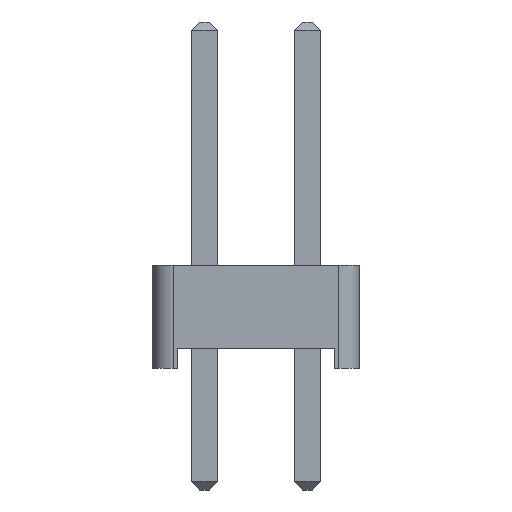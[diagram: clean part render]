
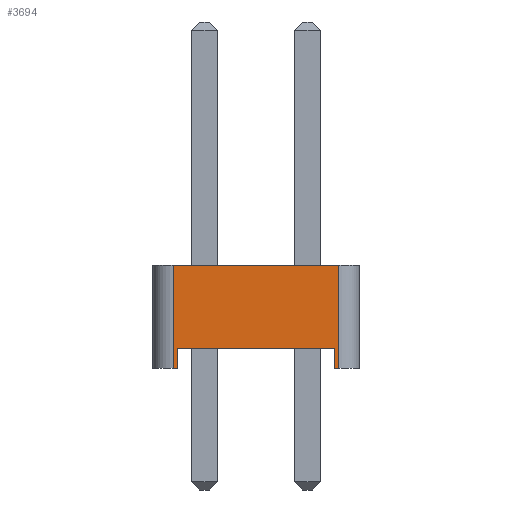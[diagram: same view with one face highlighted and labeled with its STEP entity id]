
A CAD part, left-side view. The second image highlights one B-rep face of the part: STEP entity #3694.
In plain terms, the highlighted planar face has unit normal (-1, 0, 0).
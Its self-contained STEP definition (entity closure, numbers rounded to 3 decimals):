
#3434 = VERTEX_POINT('',#3435);
#3435 = CARTESIAN_POINT('',(-1.27,2.04,0.));
#3443 = PLANE('',#3444);
#3444 = AXIS2_PLACEMENT_3D('',#3445,#3446,#3447);
#3445 = CARTESIAN_POINT('',(0.,0.,0.));
#3446 = DIRECTION('',(-0.,-0.,-1.));
#3447 = DIRECTION('',(-1.,0.,0.));
#3459 = CYLINDRICAL_SURFACE('',#3460,0.5);
#3460 = AXIS2_PLACEMENT_3D('',#3461,#3462,#3463);
#3461 = CARTESIAN_POINT('',(-0.77,2.04,0.));
#3462 = DIRECTION('',(0.,0.,1.));
#3463 = DIRECTION('',(0.,1.,0.));
#3561 = VERTEX_POINT('',#3562);
#3562 = CARTESIAN_POINT('',(-1.27,1.94,0.));
#3576 = PLANE('',#3577);
#3577 = AXIS2_PLACEMENT_3D('',#3578,#3579,#3580);
#3578 = CARTESIAN_POINT('',(1.27,1.94,0.));
#3579 = DIRECTION('',(0.,-1.,0.));
#3580 = DIRECTION('',(-1.,0.,0.));
#3588 = EDGE_CURVE('',#3561,#3434,#3589,.T.);
#3589 = SURFACE_CURVE('',#3590,(#3594,#3601),.PCURVE_S1.);
#3590 = LINE('',#3591,#3592);
#3591 = CARTESIAN_POINT('',(-1.27,-2.54,0.));
#3592 = VECTOR('',#3593,1.);
#3593 = DIRECTION('',(0.,1.,0.));
#3594 = PCURVE('',#3443,#3595);
#3595 = DEFINITIONAL_REPRESENTATION('',(#3596),#3600);
#3596 = LINE('',#3597,#3598);
#3597 = CARTESIAN_POINT('',(1.27,-2.54));
#3598 = VECTOR('',#3599,1.);
#3599 = DIRECTION('',(0.,1.));
#3600 = ( GEOMETRIC_REPRESENTATION_CONTEXT(2) 
PARAMETRIC_REPRESENTATION_CONTEXT() REPRESENTATION_CONTEXT('2D SPACE',''
  ) );
#3601 = PCURVE('',#3602,#3607);
#3602 = PLANE('',#3603);
#3603 = AXIS2_PLACEMENT_3D('',#3604,#3605,#3606);
#3604 = CARTESIAN_POINT('',(-1.27,-2.54,0.));
#3605 = DIRECTION('',(-1.,0.,0.));
#3606 = DIRECTION('',(0.,1.,0.));
#3607 = DEFINITIONAL_REPRESENTATION('',(#3608),#3612);
#3608 = LINE('',#3609,#3610);
#3609 = CARTESIAN_POINT('',(0.,0.));
#3610 = VECTOR('',#3611,1.);
#3611 = DIRECTION('',(1.,0.));
#3612 = ( GEOMETRIC_REPRESENTATION_CONTEXT(2) 
PARAMETRIC_REPRESENTATION_CONTEXT() REPRESENTATION_CONTEXT('2D SPACE',''
  ) );
#3618 = EDGE_CURVE('',#3434,#3619,#3621,.T.);
#3619 = VERTEX_POINT('',#3620);
#3620 = CARTESIAN_POINT('',(-1.27,2.04,2.54));
#3621 = SURFACE_CURVE('',#3622,(#3626,#3633),.PCURVE_S1.);
#3622 = LINE('',#3623,#3624);
#3623 = CARTESIAN_POINT('',(-1.27,2.04,0.));
#3624 = VECTOR('',#3625,1.);
#3625 = DIRECTION('',(0.,0.,1.));
#3626 = PCURVE('',#3459,#3627);
#3627 = DEFINITIONAL_REPRESENTATION('',(#3628),#3632);
#3628 = LINE('',#3629,#3630);
#3629 = CARTESIAN_POINT('',(1.571,0.));
#3630 = VECTOR('',#3631,1.);
#3631 = DIRECTION('',(0.,1.));
#3632 = ( GEOMETRIC_REPRESENTATION_CONTEXT(2) 
PARAMETRIC_REPRESENTATION_CONTEXT() REPRESENTATION_CONTEXT('2D SPACE',''
  ) );
#3633 = PCURVE('',#3602,#3634);
#3634 = DEFINITIONAL_REPRESENTATION('',(#3635),#3639);
#3635 = LINE('',#3636,#3637);
#3636 = CARTESIAN_POINT('',(4.58,0.));
#3637 = VECTOR('',#3638,1.);
#3638 = DIRECTION('',(0.,-1.));
#3639 = ( GEOMETRIC_REPRESENTATION_CONTEXT(2) 
PARAMETRIC_REPRESENTATION_CONTEXT() REPRESENTATION_CONTEXT('2D SPACE',''
  ) );
#3658 = PLANE('',#3659);
#3659 = AXIS2_PLACEMENT_3D('',#3660,#3661,#3662);
#3660 = CARTESIAN_POINT('',(0.,0.,2.54));
#3661 = DIRECTION('',(-0.,-0.,-1.));
#3662 = DIRECTION('',(-1.,0.,0.));
#3694 = ADVANCED_FACE('',(#3695),#3602,.T.);
#3695 = FACE_BOUND('',#3696,.T.);
#3696 = EDGE_LOOP('',(#3697,#3727,#3755,#3776,#3777,#3778,#3801,#3829));
#3697 = ORIENTED_EDGE('',*,*,#3698,.F.);
#3698 = EDGE_CURVE('',#3699,#3701,#3703,.T.);
#3699 = VERTEX_POINT('',#3700);
#3700 = CARTESIAN_POINT('',(-1.27,-2.04,0.));
#3701 = VERTEX_POINT('',#3702);
#3702 = CARTESIAN_POINT('',(-1.27,-1.94,0.));
#3703 = SURFACE_CURVE('',#3704,(#3708,#3715),.PCURVE_S1.);
#3704 = LINE('',#3705,#3706);
#3705 = CARTESIAN_POINT('',(-1.27,-2.54,0.));
#3706 = VECTOR('',#3707,1.);
#3707 = DIRECTION('',(0.,1.,0.));
#3708 = PCURVE('',#3602,#3709);
#3709 = DEFINITIONAL_REPRESENTATION('',(#3710),#3714);
#3710 = LINE('',#3711,#3712);
#3711 = CARTESIAN_POINT('',(0.,0.));
#3712 = VECTOR('',#3713,1.);
#3713 = DIRECTION('',(1.,0.));
#3714 = ( GEOMETRIC_REPRESENTATION_CONTEXT(2) 
PARAMETRIC_REPRESENTATION_CONTEXT() REPRESENTATION_CONTEXT('2D SPACE',''
  ) );
#3715 = PCURVE('',#3716,#3721);
#3716 = PLANE('',#3717);
#3717 = AXIS2_PLACEMENT_3D('',#3718,#3719,#3720);
#3718 = CARTESIAN_POINT('',(0.,0.,0.));
#3719 = DIRECTION('',(-0.,-0.,-1.));
#3720 = DIRECTION('',(-1.,0.,0.));
#3721 = DEFINITIONAL_REPRESENTATION('',(#3722),#3726);
#3722 = LINE('',#3723,#3724);
#3723 = CARTESIAN_POINT('',(1.27,-2.54));
#3724 = VECTOR('',#3725,1.);
#3725 = DIRECTION('',(0.,1.));
#3726 = ( GEOMETRIC_REPRESENTATION_CONTEXT(2) 
PARAMETRIC_REPRESENTATION_CONTEXT() REPRESENTATION_CONTEXT('2D SPACE',''
  ) );
#3727 = ORIENTED_EDGE('',*,*,#3728,.T.);
#3728 = EDGE_CURVE('',#3699,#3729,#3731,.T.);
#3729 = VERTEX_POINT('',#3730);
#3730 = CARTESIAN_POINT('',(-1.27,-2.04,2.54));
#3731 = SURFACE_CURVE('',#3732,(#3736,#3743),.PCURVE_S1.);
#3732 = LINE('',#3733,#3734);
#3733 = CARTESIAN_POINT('',(-1.27,-2.04,0.));
#3734 = VECTOR('',#3735,1.);
#3735 = DIRECTION('',(0.,0.,1.));
#3736 = PCURVE('',#3602,#3737);
#3737 = DEFINITIONAL_REPRESENTATION('',(#3738),#3742);
#3738 = LINE('',#3739,#3740);
#3739 = CARTESIAN_POINT('',(0.5,0.));
#3740 = VECTOR('',#3741,1.);
#3741 = DIRECTION('',(0.,-1.));
#3742 = ( GEOMETRIC_REPRESENTATION_CONTEXT(2) 
PARAMETRIC_REPRESENTATION_CONTEXT() REPRESENTATION_CONTEXT('2D SPACE',''
  ) );
#3743 = PCURVE('',#3744,#3749);
#3744 = CYLINDRICAL_SURFACE('',#3745,0.5);
#3745 = AXIS2_PLACEMENT_3D('',#3746,#3747,#3748);
#3746 = CARTESIAN_POINT('',(-0.77,-2.04,0.));
#3747 = DIRECTION('',(0.,0.,1.));
#3748 = DIRECTION('',(0.,-1.,0.));
#3749 = DEFINITIONAL_REPRESENTATION('',(#3750),#3754);
#3750 = LINE('',#3751,#3752);
#3751 = CARTESIAN_POINT('',(-1.571,0.));
#3752 = VECTOR('',#3753,1.);
#3753 = DIRECTION('',(-0.,1.));
#3754 = ( GEOMETRIC_REPRESENTATION_CONTEXT(2) 
PARAMETRIC_REPRESENTATION_CONTEXT() REPRESENTATION_CONTEXT('2D SPACE',''
  ) );
#3755 = ORIENTED_EDGE('',*,*,#3756,.T.);
#3756 = EDGE_CURVE('',#3729,#3619,#3757,.T.);
#3757 = SURFACE_CURVE('',#3758,(#3762,#3769),.PCURVE_S1.);
#3758 = LINE('',#3759,#3760);
#3759 = CARTESIAN_POINT('',(-1.27,-2.54,2.54));
#3760 = VECTOR('',#3761,1.);
#3761 = DIRECTION('',(0.,1.,0.));
#3762 = PCURVE('',#3602,#3763);
#3763 = DEFINITIONAL_REPRESENTATION('',(#3764),#3768);
#3764 = LINE('',#3765,#3766);
#3765 = CARTESIAN_POINT('',(0.,-2.54));
#3766 = VECTOR('',#3767,1.);
#3767 = DIRECTION('',(1.,0.));
#3768 = ( GEOMETRIC_REPRESENTATION_CONTEXT(2) 
PARAMETRIC_REPRESENTATION_CONTEXT() REPRESENTATION_CONTEXT('2D SPACE',''
  ) );
#3769 = PCURVE('',#3658,#3770);
#3770 = DEFINITIONAL_REPRESENTATION('',(#3771),#3775);
#3771 = LINE('',#3772,#3773);
#3772 = CARTESIAN_POINT('',(1.27,-2.54));
#3773 = VECTOR('',#3774,1.);
#3774 = DIRECTION('',(0.,1.));
#3775 = ( GEOMETRIC_REPRESENTATION_CONTEXT(2) 
PARAMETRIC_REPRESENTATION_CONTEXT() REPRESENTATION_CONTEXT('2D SPACE',''
  ) );
#3776 = ORIENTED_EDGE('',*,*,#3618,.F.);
#3777 = ORIENTED_EDGE('',*,*,#3588,.F.);
#3778 = ORIENTED_EDGE('',*,*,#3779,.T.);
#3779 = EDGE_CURVE('',#3561,#3780,#3782,.T.);
#3780 = VERTEX_POINT('',#3781);
#3781 = CARTESIAN_POINT('',(-1.27,1.94,0.5));
#3782 = SURFACE_CURVE('',#3783,(#3787,#3794),.PCURVE_S1.);
#3783 = LINE('',#3784,#3785);
#3784 = CARTESIAN_POINT('',(-1.27,1.94,0.));
#3785 = VECTOR('',#3786,1.);
#3786 = DIRECTION('',(0.,0.,1.));
#3787 = PCURVE('',#3602,#3788);
#3788 = DEFINITIONAL_REPRESENTATION('',(#3789),#3793);
#3789 = LINE('',#3790,#3791);
#3790 = CARTESIAN_POINT('',(4.48,0.));
#3791 = VECTOR('',#3792,1.);
#3792 = DIRECTION('',(0.,-1.));
#3793 = ( GEOMETRIC_REPRESENTATION_CONTEXT(2) 
PARAMETRIC_REPRESENTATION_CONTEXT() REPRESENTATION_CONTEXT('2D SPACE',''
  ) );
#3794 = PCURVE('',#3576,#3795);
#3795 = DEFINITIONAL_REPRESENTATION('',(#3796),#3800);
#3796 = LINE('',#3797,#3798);
#3797 = CARTESIAN_POINT('',(2.54,0.));
#3798 = VECTOR('',#3799,1.);
#3799 = DIRECTION('',(0.,-1.));
#3800 = ( GEOMETRIC_REPRESENTATION_CONTEXT(2) 
PARAMETRIC_REPRESENTATION_CONTEXT() REPRESENTATION_CONTEXT('2D SPACE',''
  ) );
#3801 = ORIENTED_EDGE('',*,*,#3802,.T.);
#3802 = EDGE_CURVE('',#3780,#3803,#3805,.T.);
#3803 = VERTEX_POINT('',#3804);
#3804 = CARTESIAN_POINT('',(-1.27,-1.94,0.5));
#3805 = SURFACE_CURVE('',#3806,(#3810,#3817),.PCURVE_S1.);
#3806 = LINE('',#3807,#3808);
#3807 = CARTESIAN_POINT('',(-1.27,1.94,0.5));
#3808 = VECTOR('',#3809,1.);
#3809 = DIRECTION('',(0.,-1.,0.));
#3810 = PCURVE('',#3602,#3811);
#3811 = DEFINITIONAL_REPRESENTATION('',(#3812),#3816);
#3812 = LINE('',#3813,#3814);
#3813 = CARTESIAN_POINT('',(4.48,-0.5));
#3814 = VECTOR('',#3815,1.);
#3815 = DIRECTION('',(-1.,0.));
#3816 = ( GEOMETRIC_REPRESENTATION_CONTEXT(2) 
PARAMETRIC_REPRESENTATION_CONTEXT() REPRESENTATION_CONTEXT('2D SPACE',''
  ) );
#3817 = PCURVE('',#3818,#3823);
#3818 = PLANE('',#3819);
#3819 = AXIS2_PLACEMENT_3D('',#3820,#3821,#3822);
#3820 = CARTESIAN_POINT('',(0.,0.,0.5));
#3821 = DIRECTION('',(0.,0.,1.));
#3822 = DIRECTION('',(1.,0.,0.));
#3823 = DEFINITIONAL_REPRESENTATION('',(#3824),#3828);
#3824 = LINE('',#3825,#3826);
#3825 = CARTESIAN_POINT('',(-1.27,1.94));
#3826 = VECTOR('',#3827,1.);
#3827 = DIRECTION('',(0.,-1.));
#3828 = ( GEOMETRIC_REPRESENTATION_CONTEXT(2) 
PARAMETRIC_REPRESENTATION_CONTEXT() REPRESENTATION_CONTEXT('2D SPACE',''
  ) );
#3829 = ORIENTED_EDGE('',*,*,#3830,.F.);
#3830 = EDGE_CURVE('',#3701,#3803,#3831,.T.);
#3831 = SURFACE_CURVE('',#3832,(#3836,#3843),.PCURVE_S1.);
#3832 = LINE('',#3833,#3834);
#3833 = CARTESIAN_POINT('',(-1.27,-1.94,0.));
#3834 = VECTOR('',#3835,1.);
#3835 = DIRECTION('',(0.,0.,1.));
#3836 = PCURVE('',#3602,#3837);
#3837 = DEFINITIONAL_REPRESENTATION('',(#3838),#3842);
#3838 = LINE('',#3839,#3840);
#3839 = CARTESIAN_POINT('',(0.6,0.));
#3840 = VECTOR('',#3841,1.);
#3841 = DIRECTION('',(0.,-1.));
#3842 = ( GEOMETRIC_REPRESENTATION_CONTEXT(2) 
PARAMETRIC_REPRESENTATION_CONTEXT() REPRESENTATION_CONTEXT('2D SPACE',''
  ) );
#3843 = PCURVE('',#3844,#3849);
#3844 = PLANE('',#3845);
#3845 = AXIS2_PLACEMENT_3D('',#3846,#3847,#3848);
#3846 = CARTESIAN_POINT('',(-1.27,-1.94,0.));
#3847 = DIRECTION('',(0.,1.,0.));
#3848 = DIRECTION('',(1.,0.,0.));
#3849 = DEFINITIONAL_REPRESENTATION('',(#3850),#3854);
#3850 = LINE('',#3851,#3852);
#3851 = CARTESIAN_POINT('',(0.,0.));
#3852 = VECTOR('',#3853,1.);
#3853 = DIRECTION('',(0.,-1.));
#3854 = ( GEOMETRIC_REPRESENTATION_CONTEXT(2) 
PARAMETRIC_REPRESENTATION_CONTEXT() REPRESENTATION_CONTEXT('2D SPACE',''
  ) );
